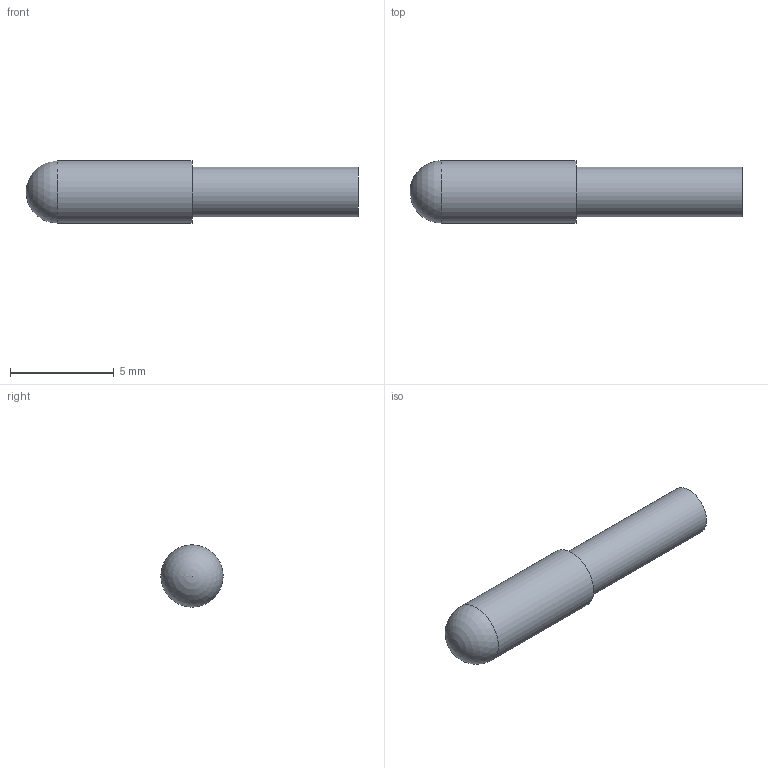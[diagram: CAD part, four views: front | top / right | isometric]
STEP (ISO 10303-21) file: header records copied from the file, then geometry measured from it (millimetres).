
FILE_DESCRIPTION( ( 'STEP AP203' ), '1' );
FILE_NAME( 'C:/Temp/Ganter_Step_05_03_2020/data/3_1/gn610/Spring loaded shell GN 610-3-16-HN.stp', '2020-03-12T08:33:18', ( 'License CC BY-ND 4.0' ), ( 'CADENAS' ), ' ', 'PARTsolutions', ' ' );
FILE_SCHEMA( ( 'CONFIG_CONTROL_DESIGN' ) );
Length unit declared in the file: millimetre
Products named in the file (1): _Spring loaded shell GN 610-3-16-HN
Bounding box: 16 x 3 x 3 mm (x, y, z)
Volume: 58.8 mm3; surface area: 198.1 mm2
Topology: 1 solids, 1 shells, 7 faces, 12 edges, 8 vertices
Faces by surface type: cylinder 3, plane 3, sphere 1
Full cylindrical faces by diameter (mm): 2.2 x1, 2.4 x1, 3 x1
Entity records: 182 total; most frequent: DIRECTION 28, CARTESIAN_POINT 21, AXIS2_PLACEMENT_3D 14, EDGE_LOOP 12, ORIENTED_EDGE 12, FACE_OUTER_BOUND 10, ADVANCED_FACE 7, VERTEX_POINT 7
